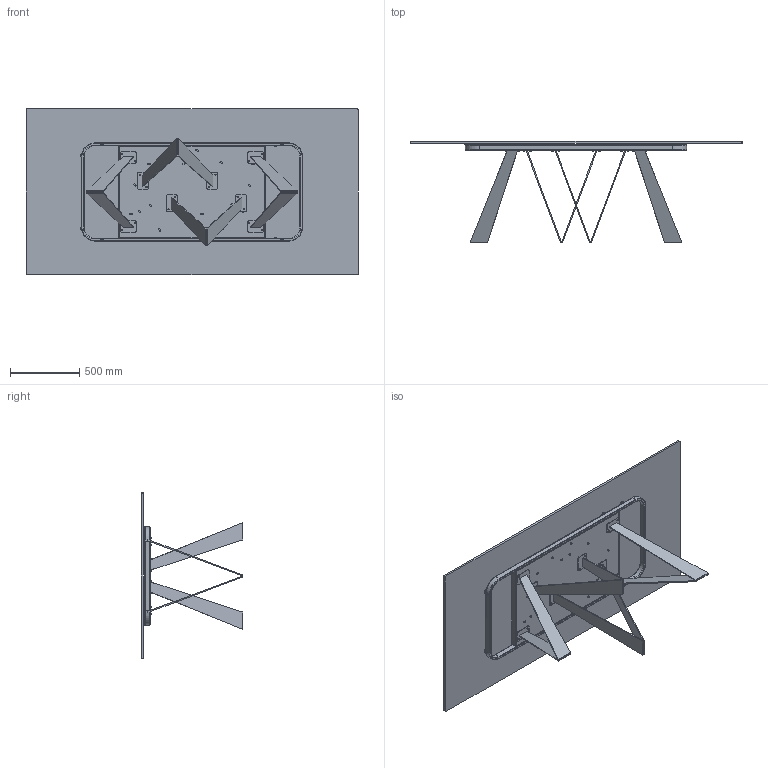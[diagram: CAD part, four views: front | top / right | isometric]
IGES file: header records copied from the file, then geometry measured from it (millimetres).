
Start section: SolidWorks IGES file using analytic representation for surfaces
Global section: file name: Y:\eforma\TECNICO\SOLIDWORKS\E-FORMA\1-TAVOLI\NOA TAVOLO\02 parts\NO23G_Noa_240x120x75h_Glass Rectangular.IGS; native system: SolidWorks 2022; preprocessor: SolidWorks 2022; author: eforma.tech; date: 240807.161522; units: millimetre
Bounding box: 2400 x 734.8 x 1200 mm (x, y, z)
Volume: 52367445.7 mm3; surface area: 9911184.3 mm2
Topology: 70 solids, 70 shells, 1476 faces, 3372 edges, 2020 vertices
Faces by surface type: revolution 888, plane 588
